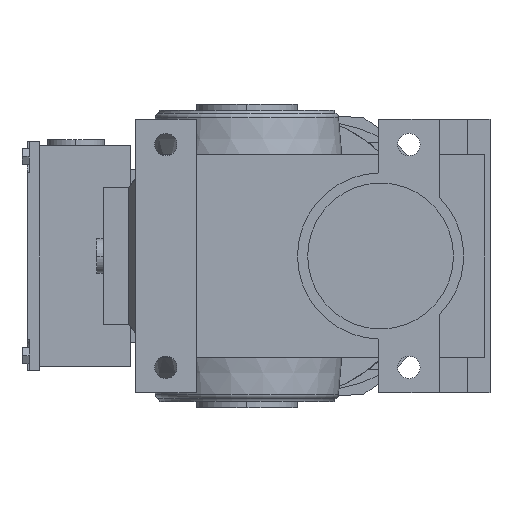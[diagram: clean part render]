
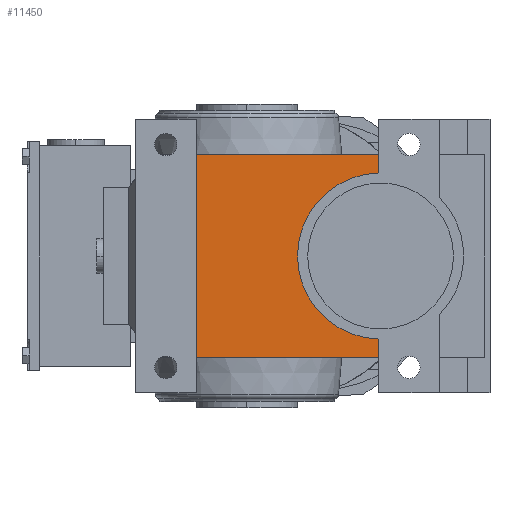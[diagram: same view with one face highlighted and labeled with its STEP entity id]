
A CAD part, left-side view. The second image highlights one B-rep face of the part: STEP entity #11450.
In plain terms, the highlighted planar face has unit normal (-1, 0, 0).
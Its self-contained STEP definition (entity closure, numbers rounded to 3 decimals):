
#10890=CARTESIAN_POINT('',(-82.5,-138.,-71.5));
#10900=DIRECTION('',(-1.,0.,0.));
#10910=DIRECTION('',(0.,1.,0.));
#10920=AXIS2_PLACEMENT_3D('',#10890,#10900,#10910);
#10930=PLANE('',#10920);
#10940=CARTESIAN_POINT('',(-82.5,-83.,-70.634));
#10950=DIRECTION('',(0.,0.,-1.));
#10960=VECTOR('',#10950,1.);
#10970=LINE('',#10940,#10960);
#10980=CARTESIAN_POINT('',(-82.5,-83.,-112.488));
#10990=VERTEX_POINT('',#10980);
#11000=CARTESIAN_POINT('',(-82.5,-83.,-121.5));
#11010=VERTEX_POINT('',#11000);
#11020=EDGE_CURVE('',#10990,#11010,#10970,.T.);
#11030=ORIENTED_EDGE('',*,*,#11020,.F.);
#11040=CARTESIAN_POINT('',(-82.5,43.,-121.5));
#11050=DIRECTION('',(0.,1.,0.));
#11060=VECTOR('',#11050,1.);
#11070=LINE('',#11040,#11060);
#11080=CARTESIAN_POINT('',(-82.5,7.,-121.5));
#11090=VERTEX_POINT('',#11080);
#11100=EDGE_CURVE('',#11010,#11090,#11070,.T.);
#11110=ORIENTED_EDGE('',*,*,#11100,.F.);
#11120=CARTESIAN_POINT('',(-82.5,7.,-72.366));
#11130=DIRECTION('',(0.,0.,-1.));
#11140=VECTOR('',#11130,1.);
#11150=LINE('',#11120,#11140);
#11160=CARTESIAN_POINT('',(-82.5,7.,-21.5));
#11170=VERTEX_POINT('',#11160);
#11180=EDGE_CURVE('',#11170,#11090,#11150,.T.);
#11190=ORIENTED_EDGE('',*,*,#11180,.T.);
#11200=CARTESIAN_POINT('',(-82.5,43.,-21.5));
#11210=DIRECTION('',(0.,1.,0.));
#11220=VECTOR('',#11210,1.);
#11230=LINE('',#11200,#11220);
#11240=CARTESIAN_POINT('',(-82.5,-83.,-21.5));
#11250=VERTEX_POINT('',#11240);
#11260=EDGE_CURVE('',#11250,#11170,#11230,.T.);
#11270=ORIENTED_EDGE('',*,*,#11260,.T.);
#11280=CARTESIAN_POINT('',(-82.5,-83.,-72.366));
#11290=DIRECTION('',(0.,0.,1.));
#11300=VECTOR('',#11290,1.);
#11310=LINE('',#11280,#11300);
#11320=CARTESIAN_POINT('',(-82.5,-83.,-30.512));
#11330=VERTEX_POINT('',#11320);
#11340=EDGE_CURVE('',#11330,#11250,#11310,.T.);
#11350=ORIENTED_EDGE('',*,*,#11340,.T.);
#11360=CARTESIAN_POINT('',(-82.5,-84.,-71.5));
#11370=DIRECTION('',(-1.,0.,0.));
#11380=DIRECTION('',(0.,-1.,0.));
#11390=AXIS2_PLACEMENT_3D('',#11360,#11370,#11380);
#11400=CIRCLE('',#11390,41.);
#11410=EDGE_CURVE('',#11330,#10990,#11400,.T.);
#11420=ORIENTED_EDGE('',*,*,#11410,.F.);
#11430=EDGE_LOOP('',(#11420,#11350,#11270,#11190,#11110,#11030));
#11440=FACE_OUTER_BOUND('',#11430,.T.);
#11450=ADVANCED_FACE('',(#11440),#10930,.T.);
